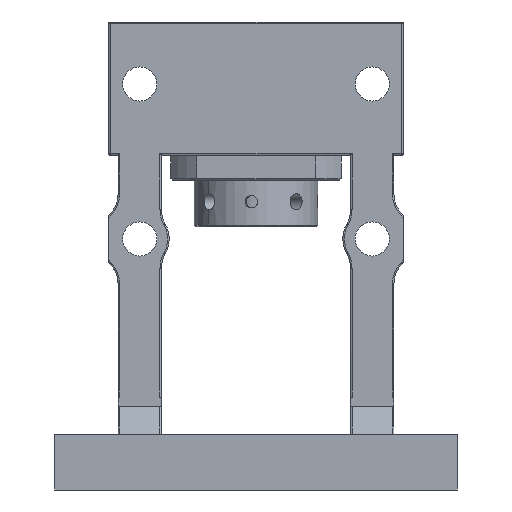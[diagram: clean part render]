
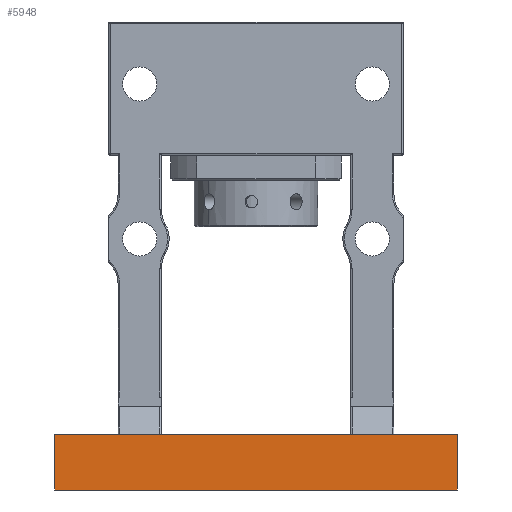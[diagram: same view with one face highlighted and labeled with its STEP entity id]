
A CAD part, front view. The second image highlights one B-rep face of the part: STEP entity #5948.
In plain terms, the highlighted planar face has unit normal (0, -1, 0).
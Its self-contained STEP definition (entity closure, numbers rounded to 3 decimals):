
#117 = EDGE_CURVE ( 'NONE', #156, #7016, #5543, .T. ) ;
#156 = VERTEX_POINT ( 'NONE', #11533 ) ;
#604 = VECTOR ( 'NONE', #11692, 1000. ) ;
#721 = DIRECTION ( 'NONE',  ( -1., 0., 0. ) ) ;
#926 = CARTESIAN_POINT ( 'NONE',  ( 64.5, -63., -124.5 ) ) ;
#1143 = AXIS2_PLACEMENT_3D ( 'NONE', #9230, #9189, #9116 ) ;
#1381 = VECTOR ( 'NONE', #3040, 1000. ) ;
#1522 = CARTESIAN_POINT ( 'NONE',  ( -65., -63., -124. ) ) ;
#1657 = AXIS2_PLACEMENT_3D ( 'NONE', #3550, #3322, #3439 ) ;
#1672 = VERTEX_POINT ( 'NONE', #3634 ) ;
#1883 = DIRECTION ( 'NONE',  ( 0., 0., 1. ) ) ;
#2051 = CARTESIAN_POINT ( 'NONE',  ( 64.5, -63., -124. ) ) ;
#2112 = CARTESIAN_POINT ( 'NONE',  ( 65., -63., -142. ) ) ;
#2501 = CARTESIAN_POINT ( 'NONE',  ( 65., -63., -142. ) ) ;
#2627 = VECTOR ( 'NONE', #721, 1000. ) ;
#3040 = DIRECTION ( 'NONE',  ( -1., 0., 0. ) ) ;
#3042 = FACE_OUTER_BOUND ( 'NONE', #6114, .T. ) ;
#3058 = CIRCLE ( 'NONE', #1657, 0.5 ) ;
#3291 = EDGE_CURVE ( 'NONE', #9764, #7016, #3058, .T. ) ;
#3322 = DIRECTION ( 'NONE',  ( 0., -1., 0. ) ) ;
#3439 = DIRECTION ( 'NONE',  ( 0., 0., 1. ) ) ;
#3541 = EDGE_CURVE ( 'NONE', #9507, #9764, #5047, .T. ) ;
#3550 = CARTESIAN_POINT ( 'NONE',  ( -64.5, -63., -124.5 ) ) ;
#3634 = CARTESIAN_POINT ( 'NONE',  ( 65., -63., -124.5 ) ) ;
#4006 = EDGE_CURVE ( 'NONE', #5428, #1672, #10130, .T. ) ;
#4713 = ORIENTED_EDGE ( 'NONE', *, *, #3541, .T. ) ;
#4995 = ORIENTED_EDGE ( 'NONE', *, *, #117, .F. ) ;
#4997 = DIRECTION ( 'NONE',  ( 0., 0., 1. ) ) ;
#5047 = LINE ( 'NONE', #1522, #2627 ) ;
#5428 = VERTEX_POINT ( 'NONE', #2501 ) ;
#5543 = LINE ( 'NONE', #5703, #604 ) ;
#5703 = CARTESIAN_POINT ( 'NONE',  ( -65., -63., -144. ) ) ;
#5902 = CARTESIAN_POINT ( 'NONE',  ( 65., -63., -144. ) ) ;
#5948 = ADVANCED_FACE ( 'NONE', ( #3042 ), #10783, .F. ) ;
#6114 = EDGE_LOOP ( 'NONE', ( #4995, #7879, #7759, #6238, #4713, #9258 ) ) ;
#6238 = ORIENTED_EDGE ( 'NONE', *, *, #9405, .T. ) ;
#6242 = LINE ( 'NONE', #2112, #1381 ) ;
#7016 = VERTEX_POINT ( 'NONE', #10820 ) ;
#7305 = DIRECTION ( 'NONE',  ( 0., -1., 0. ) ) ;
#7759 = ORIENTED_EDGE ( 'NONE', *, *, #4006, .T. ) ;
#7879 = ORIENTED_EDGE ( 'NONE', *, *, #8210, .F. ) ;
#8081 = VECTOR ( 'NONE', #4997, 1000. ) ;
#8174 = AXIS2_PLACEMENT_3D ( 'NONE', #926, #7305, #1883 ) ;
#8210 = EDGE_CURVE ( 'NONE', #5428, #156, #6242, .T. ) ;
#8373 = CIRCLE ( 'NONE', #8174, 0.5 ) ;
#9116 = DIRECTION ( 'NONE',  ( 0., 0., 1. ) ) ;
#9189 = DIRECTION ( 'NONE',  ( 0., 1., 0. ) ) ;
#9230 = CARTESIAN_POINT ( 'NONE',  ( -65., -63., -144. ) ) ;
#9258 = ORIENTED_EDGE ( 'NONE', *, *, #3291, .T. ) ;
#9405 = EDGE_CURVE ( 'NONE', #1672, #9507, #8373, .T. ) ;
#9507 = VERTEX_POINT ( 'NONE', #2051 ) ;
#9764 = VERTEX_POINT ( 'NONE', #10637 ) ;
#10130 = LINE ( 'NONE', #5902, #8081 ) ;
#10637 = CARTESIAN_POINT ( 'NONE',  ( -64.5, -63., -124. ) ) ;
#10783 = PLANE ( 'NONE',  #1143 ) ;
#10820 = CARTESIAN_POINT ( 'NONE',  ( -65., -63., -124.5 ) ) ;
#11533 = CARTESIAN_POINT ( 'NONE',  ( -65., -63., -142. ) ) ;
#11692 = DIRECTION ( 'NONE',  ( 0., 0., 1. ) ) ;
